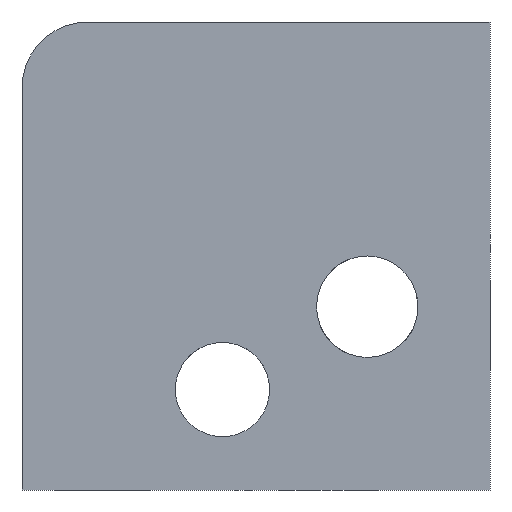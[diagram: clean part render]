
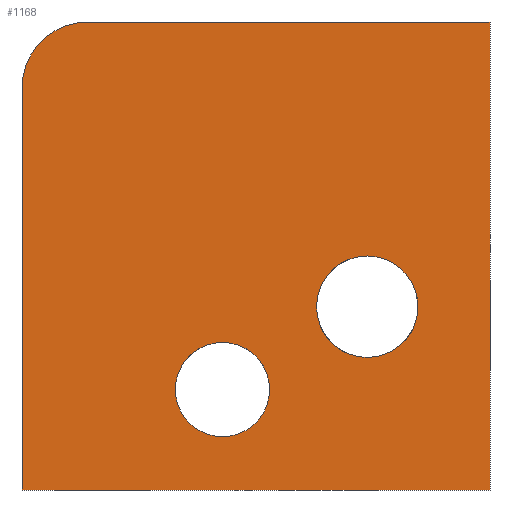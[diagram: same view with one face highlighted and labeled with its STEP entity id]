
A CAD part, front view. The second image highlights one B-rep face of the part: STEP entity #1168.
In plain terms, the highlighted planar face has unit normal (0, -1, 0).
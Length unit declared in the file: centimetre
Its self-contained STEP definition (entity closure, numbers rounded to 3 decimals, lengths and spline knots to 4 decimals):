
#8 = VERTEX_POINT ( 'NONE', #327 ) ;
#28 = CARTESIAN_POINT ( 'NONE',  ( 737.6693, 0., 391.6597 ) ) ;
#29 = VECTOR ( 'NONE', #597, 100. ) ;
#33 = ORIENTED_EDGE ( 'NONE', *, *, #494, .T. ) ;
#35 = CARTESIAN_POINT ( 'NONE',  ( 1000., 0., 0. ) ) ;
#67 = DIRECTION ( 'NONE',  ( 0., 0., 1. ) ) ;
#82 = DIRECTION ( 'NONE',  ( 0., 0., 1. ) ) ;
#106 = ORIENTED_EDGE ( 'NONE', *, *, #545, .T. ) ;
#145 = EDGE_CURVE ( 'NONE', #912, #1528, #758, .T. ) ;
#146 = ORIENTED_EDGE ( 'NONE', *, *, #1062, .T. ) ;
#160 = VERTEX_POINT ( 'NONE', #1487 ) ;
#181 = DIRECTION ( 'NONE',  ( 0., 0., 1. ) ) ;
#188 = DIRECTION ( 'NONE',  ( 0., 0., 1. ) ) ;
#201 = CARTESIAN_POINT ( 'NONE',  ( 0., 0., 0. ) ) ;
#229 = CARTESIAN_POINT ( 'NONE',  ( 428.344, 0., 315.3262 ) ) ;
#230 = VERTEX_POINT ( 'NONE', #229 ) ;
#235 = EDGE_LOOP ( 'NONE', ( #33, #1266 ) ) ;
#278 = CIRCLE ( 'NONE', #858, 100.7348 ) ;
#300 = DIRECTION ( 'NONE',  ( 0., 0., 1. ) ) ;
#313 = CIRCLE ( 'NONE', #609, 140.9714 ) ;
#327 = CARTESIAN_POINT ( 'NONE',  ( 0., 0., 0. ) ) ;
#332 = DIRECTION ( 'NONE',  ( 1., 0., 0. ) ) ;
#395 = VECTOR ( 'NONE', #1397, 100. ) ;
#401 = EDGE_CURVE ( 'NONE', #2043, #1081, #1146, .T. ) ;
#417 = FACE_BOUND ( 'NONE', #2077, .T. ) ;
#423 = CIRCLE ( 'NONE', #2048, 108.3529 ) ;
#460 = LINE ( 'NONE', #1544, #395 ) ;
#494 = EDGE_CURVE ( 'NONE', #1081, #2043, #423, .T. ) ;
#498 = CARTESIAN_POINT ( 'NONE',  ( 737.6693, 0., 283.3068 ) ) ;
#528 = VECTOR ( 'NONE', #332, 100. ) ;
#545 = EDGE_CURVE ( 'NONE', #8, #1528, #2072, .T. ) ;
#574 = FACE_OUTER_BOUND ( 'NONE', #1917, .T. ) ;
#597 = DIRECTION ( 'NONE',  ( 0., 0., -1. ) ) ;
#609 = AXIS2_PLACEMENT_3D ( 'NONE', #688, #1043, #181 ) ;
#688 = CARTESIAN_POINT ( 'NONE',  ( 140.9714, 0., 859.0286 ) ) ;
#704 = VECTOR ( 'NONE', #854, 100. ) ;
#758 = LINE ( 'NONE', #792, #29 ) ;
#789 = CIRCLE ( 'NONE', #2053, 100.7348 ) ;
#792 = CARTESIAN_POINT ( 'NONE',  ( 1000., 0., 1000. ) ) ;
#832 = DIRECTION ( 'NONE',  ( 0., 1., 0. ) ) ;
#852 = LINE ( 'NONE', #1554, #528 ) ;
#854 = DIRECTION ( 'NONE',  ( 1., 0., 0. ) ) ;
#858 = AXIS2_PLACEMENT_3D ( 'NONE', #1114, #1959, #82 ) ;
#883 = EDGE_CURVE ( 'NONE', #1404, #230, #789, .T. ) ;
#912 = VERTEX_POINT ( 'NONE', #982 ) ;
#923 = CARTESIAN_POINT ( 'NONE',  ( 0., 0., 1000. ) ) ;
#953 = EDGE_CURVE ( 'NONE', #1493, #8, #460, .T. ) ;
#982 = CARTESIAN_POINT ( 'NONE',  ( 1000., 0., 1000. ) ) ;
#989 = EDGE_CURVE ( 'NONE', #160, #912, #852, .T. ) ;
#1043 = DIRECTION ( 'NONE',  ( 0., -1., 0. ) ) ;
#1051 = ORIENTED_EDGE ( 'NONE', *, *, #145, .F. ) ;
#1062 = EDGE_CURVE ( 'NONE', #230, #1404, #278, .T. ) ;
#1065 = ORIENTED_EDGE ( 'NONE', *, *, #883, .T. ) ;
#1081 = VERTEX_POINT ( 'NONE', #1796 ) ;
#1114 = CARTESIAN_POINT ( 'NONE',  ( 428.344, 0., 214.5914 ) ) ;
#1146 = CIRCLE ( 'NONE', #1268, 108.3529 ) ;
#1168 = ADVANCED_FACE ( 'NONE', ( #2128, #417, #574 ), #1281, .F. ) ;
#1178 = ORIENTED_EDGE ( 'NONE', *, *, #953, .T. ) ;
#1266 = ORIENTED_EDGE ( 'NONE', *, *, #401, .T. ) ;
#1268 = AXIS2_PLACEMENT_3D ( 'NONE', #1853, #1367, #300 ) ;
#1281 = PLANE ( 'NONE',  #1983 ) ;
#1299 = DIRECTION ( 'NONE',  ( 0., 1., 0. ) ) ;
#1362 = EDGE_CURVE ( 'NONE', #160, #1493, #313, .T. ) ;
#1367 = DIRECTION ( 'NONE',  ( 0., 1., 0. ) ) ;
#1397 = DIRECTION ( 'NONE',  ( 0., 0., -1. ) ) ;
#1404 = VERTEX_POINT ( 'NONE', #2136 ) ;
#1428 = CARTESIAN_POINT ( 'NONE',  ( 0., 0., 859.0286 ) ) ;
#1487 = CARTESIAN_POINT ( 'NONE',  ( 140.9714, 0., 1000. ) ) ;
#1493 = VERTEX_POINT ( 'NONE', #1428 ) ;
#1498 = CARTESIAN_POINT ( 'NONE',  ( 428.344, 0., 214.5914 ) ) ;
#1528 = VERTEX_POINT ( 'NONE', #35 ) ;
#1544 = CARTESIAN_POINT ( 'NONE',  ( 0., 0., 1000. ) ) ;
#1554 = CARTESIAN_POINT ( 'NONE',  ( 0., 0., 1000. ) ) ;
#1796 = CARTESIAN_POINT ( 'NONE',  ( 737.6693, 0., 500.0126 ) ) ;
#1840 = ORIENTED_EDGE ( 'NONE', *, *, #1362, .T. ) ;
#1853 = CARTESIAN_POINT ( 'NONE',  ( 737.6693, 0., 391.6597 ) ) ;
#1884 = ORIENTED_EDGE ( 'NONE', *, *, #989, .F. ) ;
#1917 = EDGE_LOOP ( 'NONE', ( #1884, #1840, #1178, #106, #1051 ) ) ;
#1925 = DIRECTION ( 'NONE',  ( 0., 1., 0. ) ) ;
#1959 = DIRECTION ( 'NONE',  ( 0., 1., 0. ) ) ;
#1983 = AXIS2_PLACEMENT_3D ( 'NONE', #923, #1299, #67 ) ;
#2043 = VERTEX_POINT ( 'NONE', #498 ) ;
#2048 = AXIS2_PLACEMENT_3D ( 'NONE', #28, #1925, #188 ) ;
#2053 = AXIS2_PLACEMENT_3D ( 'NONE', #1498, #832, #2202 ) ;
#2072 = LINE ( 'NONE', #201, #704 ) ;
#2077 = EDGE_LOOP ( 'NONE', ( #146, #1065 ) ) ;
#2128 = FACE_BOUND ( 'NONE', #235, .T. ) ;
#2136 = CARTESIAN_POINT ( 'NONE',  ( 428.344, 0., 113.8566 ) ) ;
#2202 = DIRECTION ( 'NONE',  ( 0., 0., 1. ) ) ;
